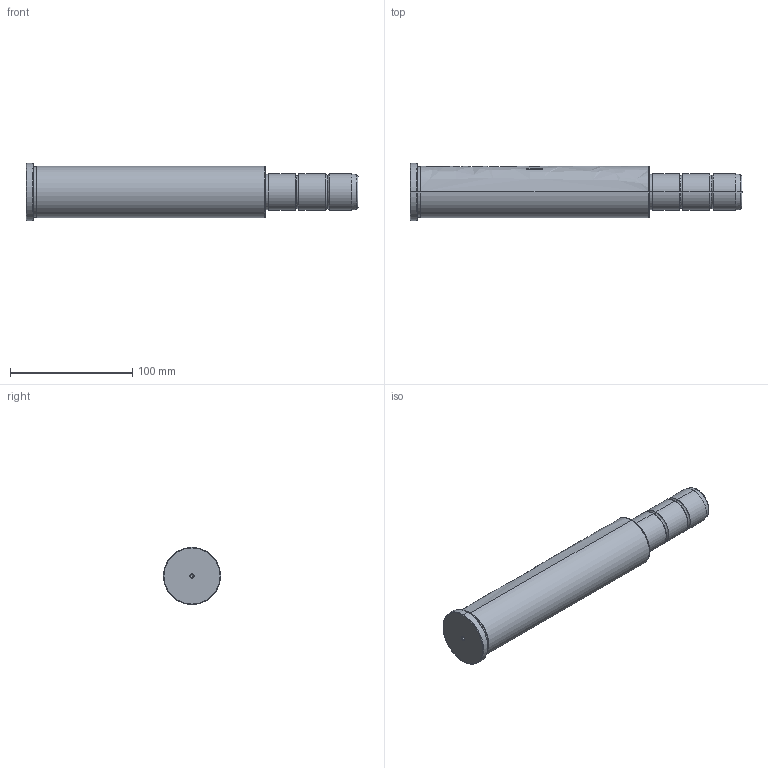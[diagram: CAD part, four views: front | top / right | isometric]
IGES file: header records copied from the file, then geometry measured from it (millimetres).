
Start section: SolidWorks IGES file using analytic representation for surfaces
Global section: file name: D:\TRIVECTOR\2026\08_Agosto\CM - COLUNA PRINCIPAL E31 (CATÁLOGO)\CM30196076.IGS; native system: SolidWorks 2024; preprocessor: SolidWorks 2024; author: Usuario; date: 260830.085302; units: millimetre
Bounding box: 272 x 47 x 47 mm (x, y, z)
Surface area: 36893.6 mm2 (no closed solid volume)
Topology: 0 solids, 0 shells, 465 faces, 4992 edges, 4988 vertices
Faces by surface type: bspline 386, revolution 79
